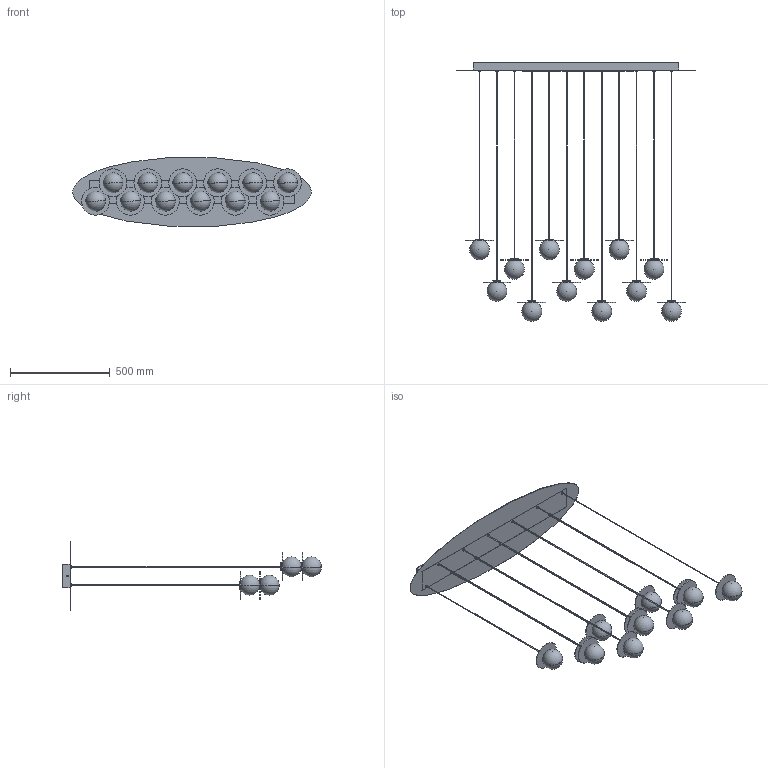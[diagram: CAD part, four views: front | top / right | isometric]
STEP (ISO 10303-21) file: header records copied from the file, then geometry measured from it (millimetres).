
FILE_DESCRIPTION (( 'STEP AP203' ), '1' );
FILE_NAME ('SPKI1012EXXXXXX-PER 3D.STEP', '2025-06-25T09:17:15', ( '' ), ( '' ), 'SwSTEP 2.0', 'SolidWorks 2024', '' );
FILE_SCHEMA (( 'CONFIG_CONTROL_DESIGN' ));
Length unit declared in the file: millimetre
Products named in the file (28): CAVO NL2CN; WSCM2C0201-0700-02_WSCM2C0201-0700-02; PENDENTE SPKI1001-00; WSCM2C0183-0100-00; WSCM2C0182-0100-00; WSVAXXX0100BC7XX00; WSCM2A0156-0700-01; WSM2G1522-FR------; SPKI1012EXXXXXX-PER 3D; WSASS-000000056-00
Assembly tree (67 placements, depth 3):
  SPKI1012EXXXXXX-PER 3D
    WSASS-000000056-00
      WSCM2C0182-0100-00
      WSCM2C0183-0100-00
      WSM2G1522-FR------  x12
    PENDENTE SPKI1001-00  x3
      WSCM2C0201-0700-02_WSCM2C0201-0700-02
      WSVAXXX0100BC7XX00
      CAVO NL2CN
      WSCM2A0156-0700-01
    PENDENTE SPKI1001-00
      WSCM2C0201-0700-02_WSCM2C0201-0700-02
      WSVAXXX0100BC7XX00
      CAVO NL2CN
      WSCM2A0156-0700-01
    PENDENTE SPKI1001-00
      WSCM2C0201-0700-02_WSCM2C0201-0700-02
      WSVAXXX0100BC7XX00
      CAVO NL2CN
      WSCM2A0156-0700-01
    PENDENTE SPKI1001-00
      WSCM2C0201-0700-02_WSCM2C0201-0700-02
      WSVAXXX0100BC7XX00
      CAVO NL2CN
      WSCM2A0156-0700-01
    PENDENTE SPKI1001-00
      WSCM2C0201-0700-02_WSCM2C0201-0700-02
      WSVAXXX0100BC7XX00
      CAVO NL2CN
      WSCM2A0156-0700-01
    PENDENTE SPKI1001-00
      WSCM2C0201-0700-02_WSCM2C0201-0700-02
      WSVAXXX0100BC7XX00
      CAVO NL2CN
      WSCM2A0156-0700-01
    PENDENTE SPKI1001-00
      WSCM2C0201-0700-02_WSCM2C0201-0700-02
      WSVAXXX0100BC7XX00
      CAVO NL2CN
      WSCM2A0156-0700-01
    PENDENTE SPKI1001-00
      WSCM2C0201-0700-02_WSCM2C0201-0700-02
      WSVAXXX0100BC7XX00
      CAVO NL2CN
      WSCM2A0156-0700-01
    PENDENTE SPKI1001-00
      WSCM2C0201-0700-02_WSCM2C0201-0700-02
      WSVAXXX0100BC7XX00
      CAVO NL2CN
      WSCM2A0156-0700-01
    PENDENTE SPKI1001-00
      WSCM2C0201-0700-02_WSCM2C0201-0700-02
      WSVAXXX0100BC7XX00
      CAVO NL2CN
      WSCM2A0156-0700-01
Bounding box: 1196 x 1297.17 x 343.95 mm (x, y, z)
Volume: 2796799.5 mm3; surface area: 2356286.8 mm2
Topology: 62 solids, 62 shells, 1156 faces, 2728 edges, 1696 vertices
Faces by surface type: cylinder 470, cone 336, plane 292, sphere 48, bspline 10
Entity records: 12554 total; most frequent: CARTESIAN_POINT 1821, DIRECTION 1526, ORIENTED_EDGE 1276, EDGE_CURVE 638, AXIS2_PLACEMENT_3D 585, VERTEX_POINT 406, VECTOR 356, LINE 356
